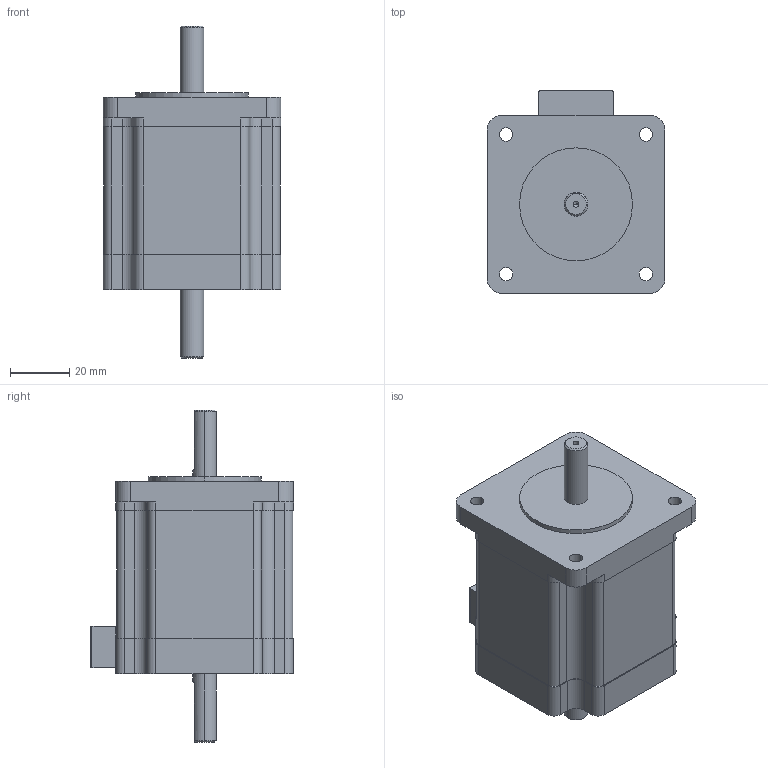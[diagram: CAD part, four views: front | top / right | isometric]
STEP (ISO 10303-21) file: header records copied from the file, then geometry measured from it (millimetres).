
FILE_DESCRIPTION (( 'STEP AP214' ), '1' );
FILE_NAME ('TS3606N13E7.STEP', '2016-09-09T03:40:46', ( 'hoho' ), ( '' ), 'SwSTEP 2.0', 'SolidWorks 2013', '' );
FILE_SCHEMA (( 'AUTOMOTIVE_DESIGN' ));
Length unit declared in the file: millimetre
Products named in the file (1): TS3606N13E7
Bounding box: 60 x 68.5 x 112 mm (x, y, z)
Volume: 211750.1 mm3; surface area: 24225.1 mm2
Topology: 1 solids, 1 shells, 124 faces, 339 edges, 221 vertices
Faces by surface type: cylinder 59, plane 57, cone 8
Entity records: 4265 total; most frequent: CARTESIAN_POINT 719, DIRECTION 701, ORIENTED_EDGE 674, EDGE_CURVE 337, AXIS2_PLACEMENT_3D 247, VERTEX_POINT 221, LINE 207, VECTOR 207
